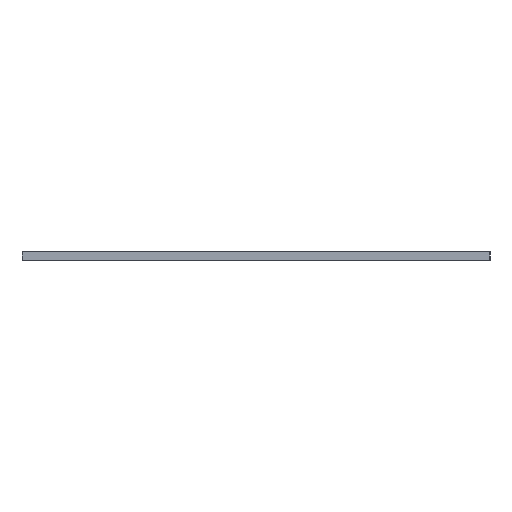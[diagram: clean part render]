
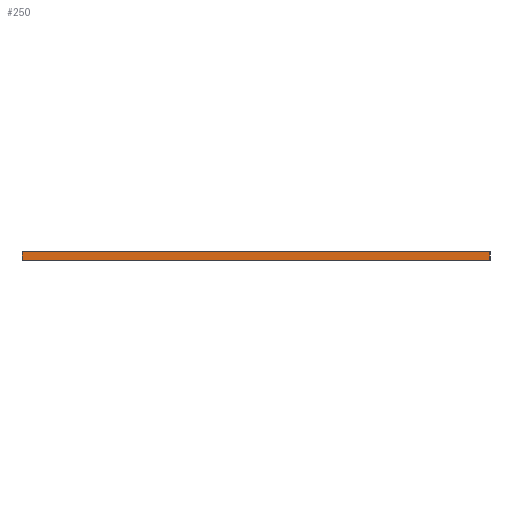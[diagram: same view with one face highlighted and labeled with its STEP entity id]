
A CAD part, left-side view. The second image highlights one B-rep face of the part: STEP entity #250.
In plain terms, the highlighted planar face has unit normal (-1, 0, 0).
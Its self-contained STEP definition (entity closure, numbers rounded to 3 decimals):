
#45 = VECTOR ( 'NONE', #73, 1000. ) ;
#49 = CARTESIAN_POINT ( 'NONE',  ( 42.443, -0.75, 1. ) ) ;
#73 = DIRECTION ( 'NONE',  ( 0., 0., -1. ) ) ;
#118 = DIRECTION ( 'NONE',  ( 0., -1., 0. ) ) ;
#188 = VERTEX_POINT ( 'NONE', #952 ) ;
#192 = EDGE_LOOP ( 'NONE', ( #671, #429, #750, #1004 ) ) ;
#250 = ADVANCED_FACE ( 'NONE', ( #782 ), #898, .F. ) ;
#263 = DIRECTION ( 'NONE',  ( 0., -1., 0. ) ) ;
#279 = LINE ( 'NONE', #49, #45 ) ;
#327 = VECTOR ( 'NONE', #118, 1000. ) ;
#356 = VERTEX_POINT ( 'NONE', #1084 ) ;
#405 = VERTEX_POINT ( 'NONE', #950 ) ;
#429 = ORIENTED_EDGE ( 'NONE', *, *, #698, .F. ) ;
#436 = CARTESIAN_POINT ( 'NONE',  ( 42.443, -57.65, 0. ) ) ;
#505 = AXIS2_PLACEMENT_3D ( 'NONE', #978, #975, #877 ) ;
#553 = CARTESIAN_POINT ( 'NONE',  ( 42.443, -57.65, 1. ) ) ;
#604 = CARTESIAN_POINT ( 'NONE',  ( 42.443, -0.75, 0. ) ) ;
#663 = DIRECTION ( 'NONE',  ( 0., 0., -1. ) ) ;
#671 = ORIENTED_EDGE ( 'NONE', *, *, #743, .T. ) ;
#698 = EDGE_CURVE ( 'NONE', #405, #835, #924, .T. ) ;
#715 = VECTOR ( 'NONE', #263, 1000. ) ;
#743 = EDGE_CURVE ( 'NONE', #356, #835, #918, .T. ) ;
#750 = ORIENTED_EDGE ( 'NONE', *, *, #755, .F. ) ;
#755 = EDGE_CURVE ( 'NONE', #188, #405, #894, .T. ) ;
#782 = FACE_OUTER_BOUND ( 'NONE', #192, .T. ) ;
#807 = EDGE_CURVE ( 'NONE', #188, #356, #279, .T. ) ;
#835 = VERTEX_POINT ( 'NONE', #436 ) ;
#863 = CARTESIAN_POINT ( 'NONE',  ( 42.443, -0.75, 1. ) ) ;
#877 = DIRECTION ( 'NONE',  ( 0., 0., -1. ) ) ;
#894 = LINE ( 'NONE', #863, #327 ) ;
#898 = PLANE ( 'NONE',  #505 ) ;
#918 = LINE ( 'NONE', #604, #715 ) ;
#924 = LINE ( 'NONE', #553, #925 ) ;
#925 = VECTOR ( 'NONE', #663, 1000. ) ;
#950 = CARTESIAN_POINT ( 'NONE',  ( 42.443, -57.65, 1. ) ) ;
#952 = CARTESIAN_POINT ( 'NONE',  ( 42.443, -0.75, 1. ) ) ;
#975 = DIRECTION ( 'NONE',  ( 1., 0., 0. ) ) ;
#978 = CARTESIAN_POINT ( 'NONE',  ( 42.443, -0.75, 1. ) ) ;
#1004 = ORIENTED_EDGE ( 'NONE', *, *, #807, .T. ) ;
#1084 = CARTESIAN_POINT ( 'NONE',  ( 42.443, -0.75, 0. ) ) ;
